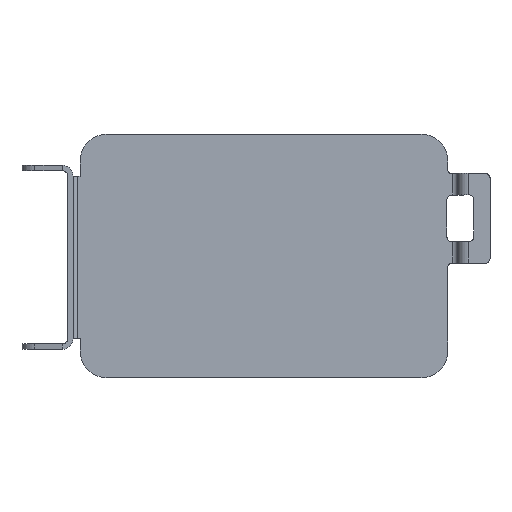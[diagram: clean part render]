
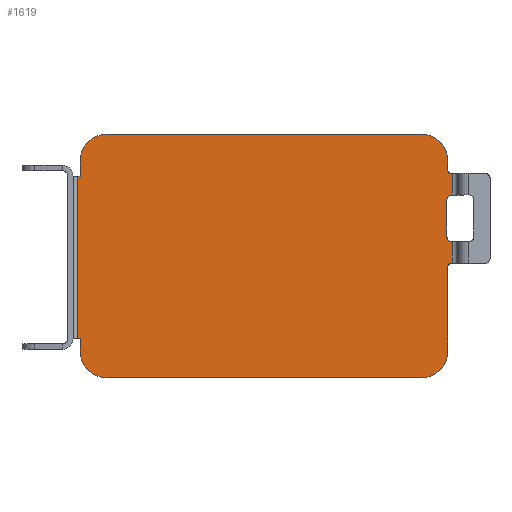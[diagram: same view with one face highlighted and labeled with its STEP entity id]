
A CAD part, top view. The second image highlights one B-rep face of the part: STEP entity #1619.
In plain terms, the highlighted planar face has unit normal (0, 0, 1).
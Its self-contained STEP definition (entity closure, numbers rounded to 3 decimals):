
#379=DIRECTION('',(0.,1.,0.));
#380=VECTOR('',#379,21.);
#381=CARTESIAN_POINT('',(104.5,91.,1.5));
#382=LINE('',#381,#380);
#383=DIRECTION('',(-1.,0.,0.));
#384=VECTOR('',#383,0.5);
#385=CARTESIAN_POINT('',(107.5,88.5,1.5));
#386=LINE('',#385,#384);
#387=DIRECTION('',(0.,-1.,0.));
#388=VECTOR('',#387,12.);
#389=CARTESIAN_POINT('',(107.5,88.5,1.5));
#390=LINE('',#389,#388);
#391=DIRECTION('',(1.,0.,0.));
#392=VECTOR('',#391,0.5);
#393=CARTESIAN_POINT('',(107.,76.5,1.5));
#394=LINE('',#393,#392);
#395=DIRECTION('',(0.,1.,0.));
#396=VECTOR('',#395,47.);
#397=CARTESIAN_POINT('',(105.,27.5,1.5));
#398=LINE('',#397,#396);
#399=CARTESIAN_POINT('',(90.,27.5,1.5));
#400=DIRECTION('',(0.,0.,1.));
#401=DIRECTION('',(0.,-1.,0.));
#402=AXIS2_PLACEMENT_3D('',#399,#400,#401);
#404=DIRECTION('',(1.,0.,0.));
#405=VECTOR('',#404,175.);
#406=CARTESIAN_POINT('',(-85.,12.5,1.5));
#407=LINE('',#406,#405);
#408=CARTESIAN_POINT('',(-85.,27.5,1.5));
#409=DIRECTION('',(0.,0.,1.));
#410=DIRECTION('',(-1.,0.,0.));
#411=AXIS2_PLACEMENT_3D('',#408,#409,#410);
#413=DIRECTION('',(0.,-1.,0.));
#414=VECTOR('',#413,7.);
#415=CARTESIAN_POINT('',(-100.,34.5,1.5));
#416=LINE('',#415,#414);
#417=DIRECTION('',(1.,0.,0.));
#418=VECTOR('',#417,1.5);
#419=CARTESIAN_POINT('',(-101.5,34.5,1.5));
#420=LINE('',#419,#418);
#421=DIRECTION('',(0.,1.,0.));
#422=VECTOR('',#421,90.5);
#423=CARTESIAN_POINT('',(-101.5,34.5,1.5));
#424=LINE('',#423,#422);
#425=DIRECTION('',(-1.,0.,0.));
#426=VECTOR('',#425,1.5);
#427=CARTESIAN_POINT('',(-100.,125.,1.5));
#428=LINE('',#427,#426);
#429=DIRECTION('',(0.,-1.,0.));
#430=VECTOR('',#429,8.5);
#431=CARTESIAN_POINT('',(-100.,133.5,1.5));
#432=LINE('',#431,#430);
#433=CARTESIAN_POINT('',(-85.,133.5,1.5));
#434=DIRECTION('',(0.,0.,1.));
#435=DIRECTION('',(0.,1.,0.));
#436=AXIS2_PLACEMENT_3D('',#433,#434,#435);
#438=DIRECTION('',(1.,0.,0.));
#439=VECTOR('',#438,175.);
#440=CARTESIAN_POINT('',(-85.,148.5,1.5));
#441=LINE('',#440,#439);
#442=CARTESIAN_POINT('',(90.,133.5,1.5));
#443=DIRECTION('',(0.,0.,1.));
#444=DIRECTION('',(1.,0.,0.));
#445=AXIS2_PLACEMENT_3D('',#442,#443,#444);
#447=DIRECTION('',(0.,1.,0.));
#448=VECTOR('',#447,5.);
#449=CARTESIAN_POINT('',(105.,128.5,1.5));
#450=LINE('',#449,#448);
#451=DIRECTION('',(-1.,0.,0.));
#452=VECTOR('',#451,0.5);
#453=CARTESIAN_POINT('',(107.5,126.5,1.5));
#454=LINE('',#453,#452);
#455=DIRECTION('',(0.,-1.,0.));
#456=VECTOR('',#455,12.);
#457=CARTESIAN_POINT('',(107.5,126.5,1.5));
#458=LINE('',#457,#456);
#459=DIRECTION('',(-1.,0.,0.));
#460=VECTOR('',#459,0.5);
#461=CARTESIAN_POINT('',(107.5,114.5,1.5));
#462=LINE('',#461,#460);
#476=CARTESIAN_POINT('',(107.,112.,1.5));
#477=DIRECTION('',(0.,0.,-1.));
#478=DIRECTION('',(-1.,0.,0.));
#479=AXIS2_PLACEMENT_3D('',#476,#477,#478);
#486=CARTESIAN_POINT('',(107.,91.,1.5));
#487=DIRECTION('',(0.,0.,-1.));
#488=DIRECTION('',(0.,-1.,0.));
#489=AXIS2_PLACEMENT_3D('',#486,#487,#488);
#521=CARTESIAN_POINT('',(107.,74.5,1.5));
#522=DIRECTION('',(0.,0.,-1.));
#523=DIRECTION('',(-1.,0.,0.));
#524=AXIS2_PLACEMENT_3D('',#521,#522,#523);
#868=CARTESIAN_POINT('',(107.,128.5,1.5));
#869=DIRECTION('',(0.,0.,-1.));
#870=DIRECTION('',(0.,-1.,0.));
#871=AXIS2_PLACEMENT_3D('',#868,#869,#870);
#877=CARTESIAN_POINT('',(90.,12.5,1.5));
#878=VERTEX_POINT('',#877);
#879=CARTESIAN_POINT('',(105.,27.5,1.5));
#880=VERTEX_POINT('',#879);
#883=CARTESIAN_POINT('',(-85.,12.5,1.5));
#884=VERTEX_POINT('',#883);
#887=CARTESIAN_POINT('',(-100.,27.5,1.5));
#888=VERTEX_POINT('',#887);
#890=CARTESIAN_POINT('',(-100.,125.,1.5));
#892=VERTEX_POINT('',#890);
#894=CARTESIAN_POINT('',(-100.,34.5,1.5));
#896=VERTEX_POINT('',#894);
#897=CARTESIAN_POINT('',(-101.5,34.5,1.5));
#898=CARTESIAN_POINT('',(-101.5,125.,1.5));
#899=VERTEX_POINT('',#897);
#900=VERTEX_POINT('',#898);
#981=CARTESIAN_POINT('',(105.,74.5,1.5));
#982=VERTEX_POINT('',#981);
#983=CARTESIAN_POINT('',(107.5,126.5,1.5));
#985=VERTEX_POINT('',#983);
#988=CARTESIAN_POINT('',(107.5,76.5,1.5));
#990=VERTEX_POINT('',#988);
#1021=CARTESIAN_POINT('',(107.,76.5,1.5));
#1022=VERTEX_POINT('',#1021);
#1023=CARTESIAN_POINT('',(107.,126.5,1.5));
#1024=VERTEX_POINT('',#1023);
#1028=CARTESIAN_POINT('',(105.,128.5,1.5));
#1030=VERTEX_POINT('',#1028);
#1045=CARTESIAN_POINT('',(107.5,114.5,1.5));
#1046=VERTEX_POINT('',#1045);
#1047=CARTESIAN_POINT('',(107.5,88.5,1.5));
#1048=VERTEX_POINT('',#1047);
#1094=CARTESIAN_POINT('',(107.,114.5,1.5));
#1096=VERTEX_POINT('',#1094);
#1098=CARTESIAN_POINT('',(104.5,112.,1.5));
#1100=VERTEX_POINT('',#1098);
#1102=CARTESIAN_POINT('',(104.5,91.,1.5));
#1104=VERTEX_POINT('',#1102);
#1106=CARTESIAN_POINT('',(107.,88.5,1.5));
#1108=VERTEX_POINT('',#1106);
#1113=CARTESIAN_POINT('',(-85.,148.5,1.5));
#1114=VERTEX_POINT('',#1113);
#1115=CARTESIAN_POINT('',(-100.,133.5,1.5));
#1116=VERTEX_POINT('',#1115);
#1117=CARTESIAN_POINT('',(105.,133.5,1.5));
#1118=CARTESIAN_POINT('',(90.,148.5,1.5));
#1119=VERTEX_POINT('',#1117);
#1120=VERTEX_POINT('',#1118);
#1569=CARTESIAN_POINT('',(0.,0.,1.5));
#1570=DIRECTION('',(0.,0.,1.));
#1571=DIRECTION('',(1.,0.,0.));
#1572=AXIS2_PLACEMENT_3D('',#1569,#1570,#1571);
#1573=PLANE('',#1572);
#1575=ORIENTED_EDGE('',*,*,#1574,.F.);
#1577=ORIENTED_EDGE('',*,*,#1576,.F.);
#1578=ORIENTED_EDGE('',*,*,#1196,.F.);
#1579=ORIENTED_EDGE('',*,*,#1560,.T.);
#1581=ORIENTED_EDGE('',*,*,#1580,.F.);
#1583=ORIENTED_EDGE('',*,*,#1582,.F.);
#1585=ORIENTED_EDGE('',*,*,#1584,.F.);
#1587=ORIENTED_EDGE('',*,*,#1586,.F.);
#1589=ORIENTED_EDGE('',*,*,#1588,.F.);
#1591=ORIENTED_EDGE('',*,*,#1590,.F.);
#1593=ORIENTED_EDGE('',*,*,#1592,.F.);
#1595=ORIENTED_EDGE('',*,*,#1594,.F.);
#1597=ORIENTED_EDGE('',*,*,#1596,.T.);
#1599=ORIENTED_EDGE('',*,*,#1598,.F.);
#1601=ORIENTED_EDGE('',*,*,#1600,.F.);
#1603=ORIENTED_EDGE('',*,*,#1602,.F.);
#1605=ORIENTED_EDGE('',*,*,#1604,.T.);
#1607=ORIENTED_EDGE('',*,*,#1606,.F.);
#1609=ORIENTED_EDGE('',*,*,#1608,.F.);
#1611=ORIENTED_EDGE('',*,*,#1610,.F.);
#1612=ORIENTED_EDGE('',*,*,#1415,.F.);
#1613=ORIENTED_EDGE('',*,*,#1547,.T.);
#1614=ORIENTED_EDGE('',*,*,#1301,.T.);
#1616=ORIENTED_EDGE('',*,*,#1615,.F.);
#1617=EDGE_LOOP('',(#1575,#1577,#1578,#1579,#1581,#1583,#1585,#1587,#1589,#1591,
#1593,#1595,#1597,#1599,#1601,#1603,#1605,#1607,#1609,#1611,#1612,#1613,#1614,
#1616));
#1618=FACE_OUTER_BOUND('',#1617,.F.);
#403=CIRCLE('',#402,15.);
#412=CIRCLE('',#411,15.);
#437=CIRCLE('',#436,15.);
#446=CIRCLE('',#445,15.);
#480=CIRCLE('',#479,2.5);
#490=CIRCLE('',#489,2.5);
#525=CIRCLE('',#524,2.);
#872=CIRCLE('',#871,2.);
#1196=EDGE_CURVE('',#1048,#1108,#386,.T.);
#1301=EDGE_CURVE('',#1046,#1096,#462,.T.);
#1415=EDGE_CURVE('',#985,#1024,#454,.T.);
#1547=EDGE_CURVE('',#985,#1046,#458,.T.);
#1560=EDGE_CURVE('',#1048,#990,#390,.T.);
#1574=EDGE_CURVE('',#1104,#1100,#382,.T.);
#1576=EDGE_CURVE('',#1108,#1104,#490,.T.);
#1580=EDGE_CURVE('',#1022,#990,#394,.T.);
#1582=EDGE_CURVE('',#982,#1022,#525,.T.);
#1584=EDGE_CURVE('',#880,#982,#398,.T.);
#1586=EDGE_CURVE('',#878,#880,#403,.T.);
#1588=EDGE_CURVE('',#884,#878,#407,.T.);
#1590=EDGE_CURVE('',#888,#884,#412,.T.);
#1592=EDGE_CURVE('',#896,#888,#416,.T.);
#1594=EDGE_CURVE('',#899,#896,#420,.T.);
#1596=EDGE_CURVE('',#899,#900,#424,.T.);
#1598=EDGE_CURVE('',#892,#900,#428,.T.);
#1600=EDGE_CURVE('',#1116,#892,#432,.T.);
#1602=EDGE_CURVE('',#1114,#1116,#437,.T.);
#1604=EDGE_CURVE('',#1114,#1120,#441,.T.);
#1606=EDGE_CURVE('',#1119,#1120,#446,.T.);
#1608=EDGE_CURVE('',#1030,#1119,#450,.T.);
#1610=EDGE_CURVE('',#1024,#1030,#872,.T.);
#1615=EDGE_CURVE('',#1100,#1096,#480,.T.);
#1619=ADVANCED_FACE('',(#1618),#1573,.T.);
